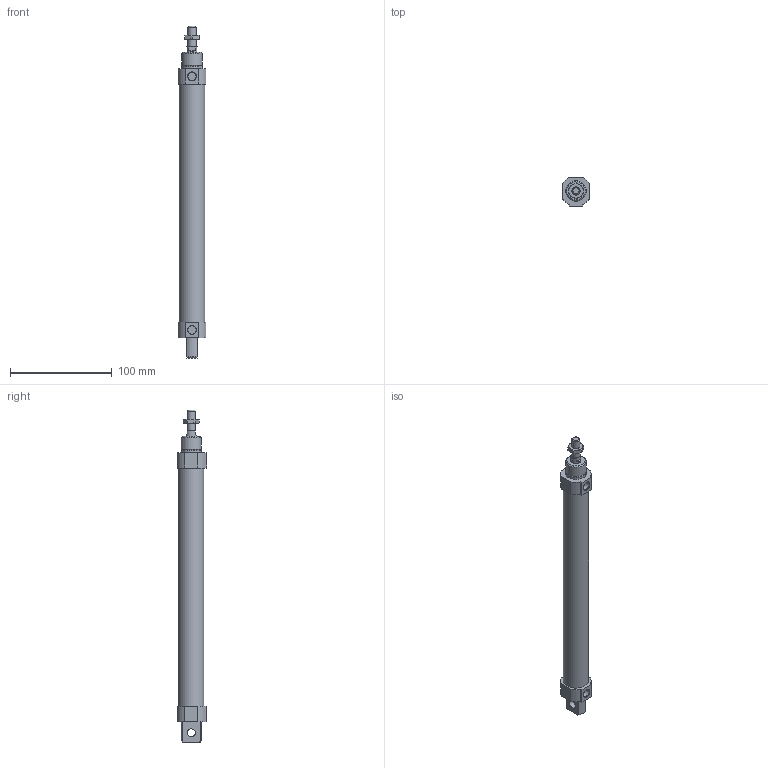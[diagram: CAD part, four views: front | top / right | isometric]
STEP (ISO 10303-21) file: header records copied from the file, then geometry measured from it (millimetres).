
FILE_DESCRIPTION((''),'2;1');
FILE_NAME('I:\3D電子目錄\氣缸\FDA\FDA\FDA\FDA20\FDA20x200.stp','2007-10-16T09:58:48',('66-2f-008'),(''),'Autodesk Inventor 11','Autodesk Inventor 11','');
FILE_SCHEMA(('AUTOMOTIVE_DESIGN { 1 0 10303 214 1 1 1 1 }'));
Length unit declared in the file: millimetre
Products named in the file (1): FDA20
Bounding box: 27 x 28.5 x 326 mm (x, y, z)
Volume: 144446.2 mm3; surface area: 26566.7 mm2
Topology: 1 solids, 1 shells, 77 faces, 178 edges, 112 vertices
Faces by surface type: plane 37, cone 20, cylinder 19, torus 1
Full cylindrical faces by diameter (mm): 8 x5, 10 x1, 20 x2, 25 x1
Entity records: 2081 total; most frequent: CARTESIAN_POINT 414, DIRECTION 348, ORIENTED_EDGE 324, EDGE_CURVE 162, AXIS2_PLACEMENT_3D 140, VERTEX_POINT 110, EDGE_LOOP 102, FACE_OUTER_BOUND 77
